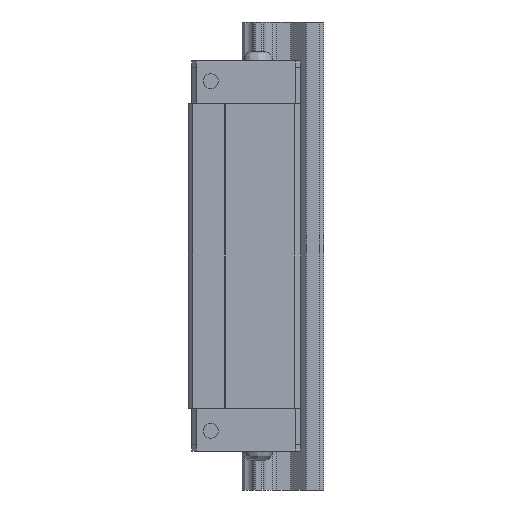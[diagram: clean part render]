
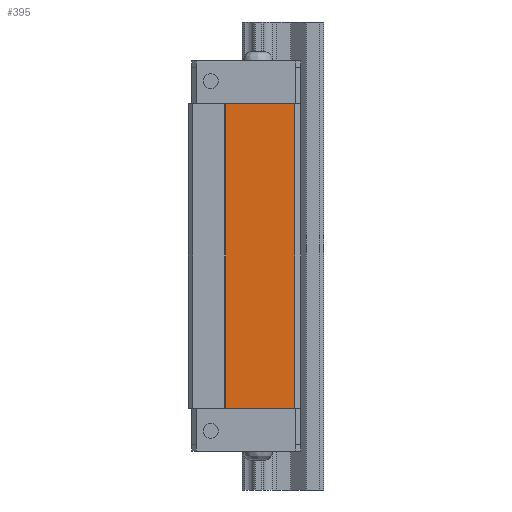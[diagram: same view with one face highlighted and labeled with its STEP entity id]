
A CAD part, left-side view. The second image highlights one B-rep face of the part: STEP entity #395.
In plain terms, the highlighted planar face has unit normal (-1, 0, 0).
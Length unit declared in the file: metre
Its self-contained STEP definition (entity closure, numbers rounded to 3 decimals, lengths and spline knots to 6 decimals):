
#395 = ADVANCED_FACE( '', ( #934 ), #935, .F. );
#934 = FACE_OUTER_BOUND( '', #1670, .T. );
#935 = PLANE( '', #1671 );
#1670 = EDGE_LOOP( '', ( #2821, #2822, #2823, #2824 ) );
#1671 = AXIS2_PLACEMENT_3D( '', #2825, #2826, #2827 );
#2821 = ORIENTED_EDGE( '', *, *, #4240, .T. );
#2822 = ORIENTED_EDGE( '', *, *, #4241, .T. );
#2823 = ORIENTED_EDGE( '', *, *, #4018, .F. );
#2824 = ORIENTED_EDGE( '', *, *, #4242, .F. );
#2825 = CARTESIAN_POINT( '', ( -0.0217, 0.0065, -0.0843 ) );
#2826 = DIRECTION( '', ( 1., 0., 0. ) );
#2827 = DIRECTION( '', ( 0., 1., 0. ) );
#4018 = EDGE_CURVE( '', #4768, #4769, #4770, .T. );
#4240 = EDGE_CURVE( '', #5115, #5116, #5117, .T. );
#4241 = EDGE_CURVE( '', #5116, #4769, #5118, .T. );
#4242 = EDGE_CURVE( '', #5115, #4768, #5119, .T. );
#4768 = VERTEX_POINT( '', #5819 );
#4769 = VERTEX_POINT( '', #5820 );
#4770 = LINE( '', #5821, #5822 );
#5115 = VERTEX_POINT( '', #6289 );
#5116 = VERTEX_POINT( '', #6290 );
#5117 = LINE( '', #6291, #6292 );
#5118 = LINE( '', #6293, #6294 );
#5119 = LINE( '', #6295, #6296 );
#5819 = CARTESIAN_POINT( '', ( -0.0217, 0.0217, -0.08525 ) );
#5820 = CARTESIAN_POINT( '', ( -0.0217, 0.0217, -0.01805 ) );
#5821 = CARTESIAN_POINT( '', ( -0.0217, 0.0217, -0.0843 ) );
#5822 = VECTOR( '', #6989, 1. );
#6289 = CARTESIAN_POINT( '', ( -0.0217, 0.0065, -0.08525 ) );
#6290 = CARTESIAN_POINT( '', ( -0.0217, 0.0065, -0.01805 ) );
#6291 = CARTESIAN_POINT( '', ( -0.0217, 0.0065, -0.0843 ) );
#6292 = VECTOR( '', #7226, 1. );
#6293 = CARTESIAN_POINT( '', ( -0.0217, 0.0065, -0.01805 ) );
#6294 = VECTOR( '', #7227, 1. );
#6295 = CARTESIAN_POINT( '', ( -0.0217, 0.0065, -0.08525 ) );
#6296 = VECTOR( '', #7228, 1. );
#6989 = DIRECTION( '', ( 0., 0., 1. ) );
#7226 = DIRECTION( '', ( 0., 0., 1. ) );
#7227 = DIRECTION( '', ( 0., 1., 0. ) );
#7228 = DIRECTION( '', ( 0., 1., 0. ) );
